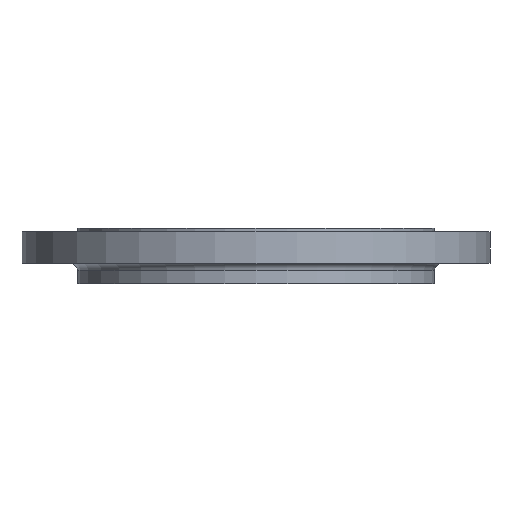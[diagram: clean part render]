
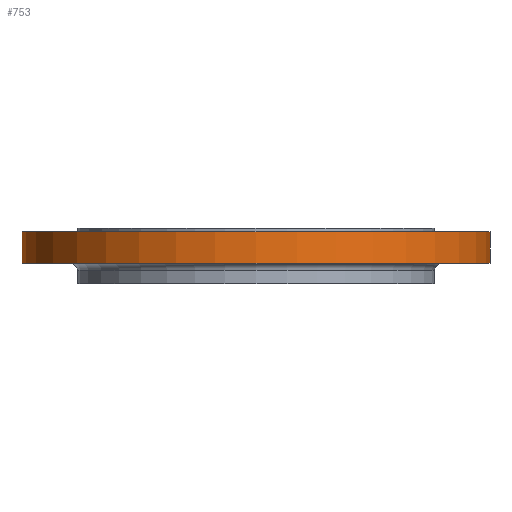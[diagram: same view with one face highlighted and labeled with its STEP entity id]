
A CAD part, front view. The second image highlights one B-rep face of the part: STEP entity #753.
In plain terms, the highlighted cylindrical face has radius 377.5 mm (diameter 755 mm), a partial arc.
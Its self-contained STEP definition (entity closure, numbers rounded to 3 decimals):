
#25 = EDGE_CURVE ( 'NONE', #1656, #1362, #566, .T. ) ;
#34 = CARTESIAN_POINT ( 'NONE',  ( 0., 0., -150. ) ) ;
#41 = AXIS2_PLACEMENT_3D ( 'NONE', #34, #664, #1262 ) ;
#78 = CIRCLE ( 'NONE', #1802, 377.5 ) ;
#80 = VECTOR ( 'NONE', #1772, 1000. ) ;
#235 = DIRECTION ( 'NONE',  ( 1., 0., 0. ) ) ;
#369 = CIRCLE ( 'NONE', #1136, 377.5 ) ;
#421 = LINE ( 'NONE', #1029, #1106 ) ;
#445 = ORIENTED_EDGE ( 'NONE', *, *, #451, .T. ) ;
#451 = EDGE_CURVE ( 'NONE', #553, #1656, #78, .T. ) ;
#553 = VERTEX_POINT ( 'NONE', #1787 ) ;
#566 = LINE ( 'NONE', #1164, #80 ) ;
#570 = EDGE_CURVE ( 'NONE', #1362, #807, #369, .T. ) ;
#594 = CARTESIAN_POINT ( 'NONE',  ( 0., 0., -5.5 ) ) ;
#664 = DIRECTION ( 'NONE',  ( 0., 0., 1. ) ) ;
#753 = ADVANCED_FACE ( 'NONE', ( #812 ), #1412, .T. ) ;
#807 = VERTEX_POINT ( 'NONE', #1433 ) ;
#812 = FACE_OUTER_BOUND ( 'NONE', #1686, .T. ) ;
#998 = CARTESIAN_POINT ( 'NONE',  ( 0., 0., -57. ) ) ;
#1029 = CARTESIAN_POINT ( 'NONE',  ( -377.5, 0., -150. ) ) ;
#1106 = VECTOR ( 'NONE', #1634, 1000. ) ;
#1136 = AXIS2_PLACEMENT_3D ( 'NONE', #594, #1194, #1795 ) ;
#1164 = CARTESIAN_POINT ( 'NONE',  ( 377.5, 0., -150. ) ) ;
#1194 = DIRECTION ( 'NONE',  ( 0., 0., -1. ) ) ;
#1211 = ORIENTED_EDGE ( 'NONE', *, *, #25, .T. ) ;
#1262 = DIRECTION ( 'NONE',  ( 1., 0., 0. ) ) ;
#1270 = CARTESIAN_POINT ( 'NONE',  ( 377.5, 0., -57. ) ) ;
#1362 = VERTEX_POINT ( 'NONE', #1783 ) ;
#1365 = EDGE_CURVE ( 'NONE', #553, #807, #421, .T. ) ;
#1412 = CYLINDRICAL_SURFACE ( 'NONE', #41, 377.5 ) ;
#1433 = CARTESIAN_POINT ( 'NONE',  ( -377.5, 0., -5.5 ) ) ;
#1601 = DIRECTION ( 'NONE',  ( 0., 0., 1. ) ) ;
#1634 = DIRECTION ( 'NONE',  ( 0., 0., 1. ) ) ;
#1656 = VERTEX_POINT ( 'NONE', #1270 ) ;
#1686 = EDGE_LOOP ( 'NONE', ( #1955, #445, #1211, #1983 ) ) ;
#1772 = DIRECTION ( 'NONE',  ( 0., 0., 1. ) ) ;
#1783 = CARTESIAN_POINT ( 'NONE',  ( 377.5, 0., -5.5 ) ) ;
#1787 = CARTESIAN_POINT ( 'NONE',  ( -377.5, 0., -57. ) ) ;
#1795 = DIRECTION ( 'NONE',  ( -1., 0., 0. ) ) ;
#1802 = AXIS2_PLACEMENT_3D ( 'NONE', #998, #1601, #235 ) ;
#1955 = ORIENTED_EDGE ( 'NONE', *, *, #1365, .F. ) ;
#1983 = ORIENTED_EDGE ( 'NONE', *, *, #570, .T. ) ;
